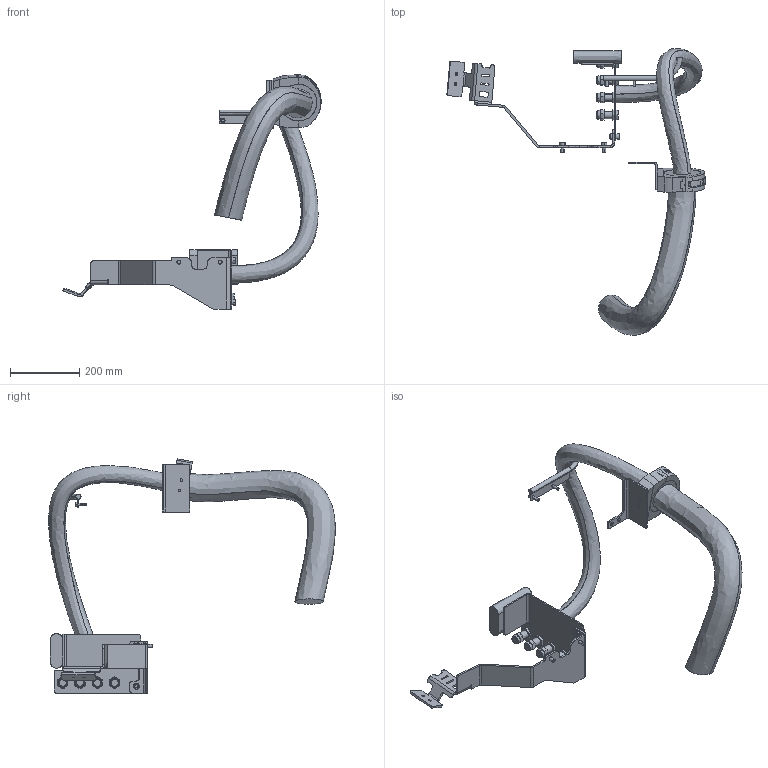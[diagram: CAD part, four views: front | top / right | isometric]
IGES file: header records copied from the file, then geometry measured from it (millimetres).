
Start section: SolidWorks IGES file using analytic representation for surfaces
Global section: file name: C:\DATA\SAP_DOC\LW\IRB 6730\IRB6730-LID-SW_190kg-310_OC_01_SW_J\Export\IRB6730-LID-SW_190kg-310_OC_01_IGES_J\IRB6730-LID-SW_190kg-310_OC_00_LINK03a_CABLE.igs; native system: SolidWorks 2024; preprocessor: SolidWorks 2024; author: SEJOVAS3; date: 260526.111357; units: millimetre
Bounding box: 747.03 x 829.02 x 677.9 mm (x, y, z)
Surface area: 723246.9 mm2 (no closed solid volume)
Topology: 0 solids, 0 shells, 580 faces, 8429 edges, 8429 vertices
Faces by surface type: bspline 362, revolution 218
